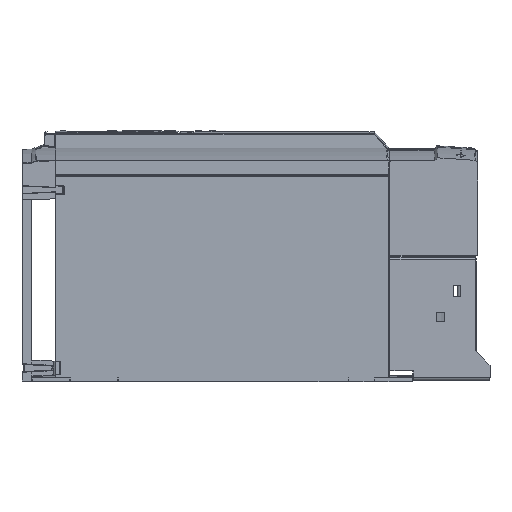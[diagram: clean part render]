
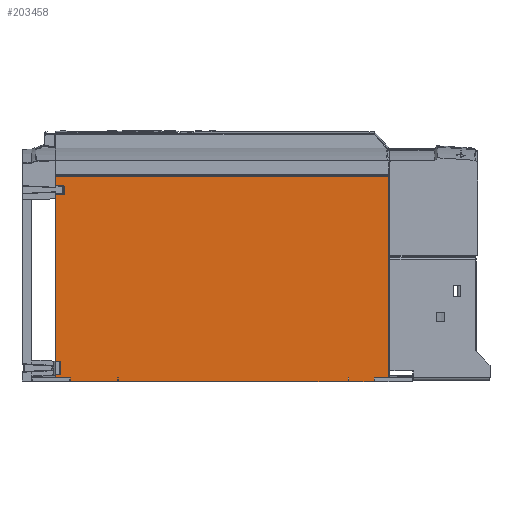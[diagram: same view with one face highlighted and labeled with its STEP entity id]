
A CAD part, left-side view. The second image highlights one B-rep face of the part: STEP entity #203458.
In plain terms, the highlighted planar face has unit normal (-1, 0, 0).
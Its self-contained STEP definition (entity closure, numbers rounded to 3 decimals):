
#75345=CARTESIAN_POINT('',(-82.5,-174.5,3.768));
#75371=CARTESIAN_POINT('',(-82.5,174.75,3.768));
#76720=DIRECTION('',(0.,0.,1.));
#76721=VECTOR('',#76720,3.768);
#76722=CARTESIAN_POINT('',(-82.5,159.156,0.));
#76723=LINE('',#76722,#76721);
#76774=CARTESIAN_POINT('',(-82.5,174.27,205.45));
#76775=CARTESIAN_POINT('',(-82.5,174.43,205.457));
#76776=CARTESIAN_POINT('',(-82.5,174.59,205.464));
#76777=CARTESIAN_POINT('',(-82.5,174.75,205.471));
#76782=DIRECTION('',(0.,0.,1.));
#76783=VECTOR('',#76782,9.179);
#76784=CARTESIAN_POINT('',(-82.5,174.75,205.471));
#76785=LINE('',#76784,#76783);
#76789=DIRECTION('',(0.,1.,0.));
#76790=VECTOR('',#76789,349.25);
#76791=CARTESIAN_POINT('',(-82.5,-174.5,214.65));
#76792=LINE('',#76791,#76790);
#76796=DIRECTION('',(0.,0.,-1.));
#76797=VECTOR('',#76796,210.882);
#76798=CARTESIAN_POINT('',(-82.5,-174.5,214.65));
#76799=LINE('',#76798,#76797);
#76803=DIRECTION('',(0.,1.,0.));
#76804=VECTOR('',#76803,14.95);
#76805=CARTESIAN_POINT('',(-82.5,-174.5,3.768));
#76806=LINE('',#76805,#76804);
#76810=DIRECTION('',(0.,0.,1.));
#76811=VECTOR('',#76810,3.768);
#76812=CARTESIAN_POINT('',(-82.5,-132.589,0.));
#76813=LINE('',#76812,#76811);
#76817=DIRECTION('',(0.,1.,0.));
#76818=VECTOR('',#76817,0.5);
#76819=CARTESIAN_POINT('',(-82.5,-132.589,3.768));
#76820=LINE('',#76819,#76818);
#76824=DIRECTION('',(0.,0.,-1.));
#76825=VECTOR('',#76824,3.775);
#76826=CARTESIAN_POINT('',(-82.5,-132.089,3.768));
#76827=LINE('',#76826,#76825);
#76831=DIRECTION('',(0.,1.,0.));
#76832=VECTOR('',#76831,241.178);
#76833=CARTESIAN_POINT('',(-82.5,-132.089,-0.007));
#76834=LINE('',#76833,#76832);
#76838=DIRECTION('',(0.,0.,1.));
#76839=VECTOR('',#76838,3.775);
#76840=CARTESIAN_POINT('',(-82.5,109.089,-0.007));
#76841=LINE('',#76840,#76839);
#76845=DIRECTION('',(0.,1.,0.));
#76846=VECTOR('',#76845,0.5);
#76847=CARTESIAN_POINT('',(-82.5,109.089,3.768));
#76848=LINE('',#76847,#76846);
#76852=DIRECTION('',(0.,0.,1.));
#76853=VECTOR('',#76852,3.768);
#76854=CARTESIAN_POINT('',(-82.5,109.589,0.));
#76855=LINE('',#76854,#76853);
#76859=DIRECTION('',(0.,1.,0.));
#76860=VECTOR('',#76859,15.594);
#76861=CARTESIAN_POINT('',(-82.5,159.156,3.768));
#76862=LINE('',#76861,#76860);
#76866=DIRECTION('',(0.,0.,1.));
#76867=VECTOR('',#76866,192.182);
#76868=CARTESIAN_POINT('',(-82.5,174.75,3.768));
#76869=LINE('',#76868,#76867);
#76873=DIRECTION('',(0.,1.,0.));
#76874=VECTOR('',#76873,8.854);
#76875=CARTESIAN_POINT('',(-82.5,165.896,195.95));
#76876=LINE('',#76875,#76874);
#76880=DIRECTION('',(0.,0.,-1.));
#76881=VECTOR('',#76880,9.);
#76882=CARTESIAN_POINT('',(-82.5,165.896,
204.95));
#76883=LINE('',#76882,#76881);
#76887=CARTESIAN_POINT('',(-82.5,165.896,
204.95));
#76888=CARTESIAN_POINT('',(-82.5,165.896,
204.967));
#76889=CARTESIAN_POINT('',(-82.5,165.899,
205.001));
#76890=CARTESIAN_POINT('',(-82.5,165.911,
205.055));
#76891=CARTESIAN_POINT('',(-82.5,165.932,
205.111));
#76892=CARTESIAN_POINT('',(-82.5,165.966,
205.17));
#76893=CARTESIAN_POINT('',(-82.5,166.013,
205.228));
#76894=CARTESIAN_POINT('',(-82.5,166.075,
205.285));
#76895=CARTESIAN_POINT('',(-82.5,166.152,
205.337));
#76896=CARTESIAN_POINT('',(-82.5,166.244,
205.383));
#76897=CARTESIAN_POINT('',(-82.5,166.352,
205.42));
#76898=CARTESIAN_POINT('',(-82.5,166.473,
205.444));
#76899=CARTESIAN_POINT('',(-82.5,166.559,
205.45));
#76900=CARTESIAN_POINT('',(-82.5,166.604,205.45));
#76905=DIRECTION('',(0.,1.,0.));
#76906=VECTOR('',#76905,7.667);
#76907=CARTESIAN_POINT('',(-82.5,166.604,205.45));
#76908=LINE('',#76907,#76906);
#167004=DIRECTION('',(0.,0.,1.));
#167005=VECTOR('',#167004,3.768);
#167006=CARTESIAN_POINT('',(-82.5,-159.55,0.));
#167007=LINE('',#167006,#167005);
#167039=DIRECTION('',(0.,-1.,0.));
#167040=VECTOR('',#167039,26.961);
#167041=CARTESIAN_POINT('',(-82.5,-132.589,0.));
#167042=LINE('',#167041,#167040);
#167174=DIRECTION('',(0.,-1.,0.));
#167175=VECTOR('',#167174,49.567);
#167176=CARTESIAN_POINT('',(-82.5,159.156,0.));
#167177=LINE('',#167176,#167175);
#175592=CARTESIAN_POINT('',(-82.5,-132.089,-0.007));
#175593=CARTESIAN_POINT('',(-82.5,109.089,-0.007));
#175594=VERTEX_POINT('',#175592);
#175595=VERTEX_POINT('',#175593);
#175601=CARTESIAN_POINT('',(-82.5,109.089,3.768));
#175603=VERTEX_POINT('',#175601);
#175605=CARTESIAN_POINT('',(-82.5,-132.089,3.768));
#175607=VERTEX_POINT('',#175605);
#175614=CARTESIAN_POINT('',(-82.5,-132.589,0.));
#175615=VERTEX_POINT('',#175614);
#175616=CARTESIAN_POINT('',(-82.5,-159.55,0.));
#175617=VERTEX_POINT('',#175616);
#175640=CARTESIAN_POINT('',(-82.5,-132.589,3.768));
#175641=VERTEX_POINT('',#175640);
#175642=CARTESIAN_POINT('',(-82.5,-159.55,3.768));
#175644=VERTEX_POINT('',#175642);
#175689=VERTEX_POINT('',#75345);
#175696=CARTESIAN_POINT('',(-82.5,109.589,0.));
#175697=VERTEX_POINT('',#175696);
#175698=CARTESIAN_POINT('',(-82.5,159.156,0.));
#175699=VERTEX_POINT('',#175698);
#175722=CARTESIAN_POINT('',(-82.5,109.589,3.768));
#175723=VERTEX_POINT('',#175722);
#175724=CARTESIAN_POINT('',(-82.5,159.156,3.768));
#175726=VERTEX_POINT('',#175724);
#176293=CARTESIAN_POINT('',(-82.5,-174.5,214.65));
#176295=VERTEX_POINT('',#176293);
#176826=CARTESIAN_POINT('',(-82.5,174.75,214.65));
#176828=VERTEX_POINT('',#176826);
#176830=VERTEX_POINT('',#75371);
#176891=VERTEX_POINT('',#76887);
#176892=VERTEX_POINT('',#76900);
#176897=CARTESIAN_POINT('',(-82.5,165.896,195.95));
#176898=VERTEX_POINT('',#176897);
#177096=CARTESIAN_POINT('',(-82.5,174.75,195.95));
#177097=VERTEX_POINT('',#177096);
#185767=VERTEX_POINT('',#76774);
#185768=VERTEX_POINT('',#76777);
#203412=CARTESIAN_POINT('',(-82.5,-175.,3.768));
#203413=DIRECTION('',(-1.,0.,0.));
#203414=DIRECTION('',(0.,0.,1.));
#203415=AXIS2_PLACEMENT_3D('',#203412,#203413,#203414);
#203416=PLANE('',#203415);
#203418=ORIENTED_EDGE('',*,*,#203417,.T.);
#203420=ORIENTED_EDGE('',*,*,#203419,.T.);
#203422=ORIENTED_EDGE('',*,*,#203421,.F.);
#203424=ORIENTED_EDGE('',*,*,#203423,.T.);
#203425=ORIENTED_EDGE('',*,*,#202167,.T.);
#203427=ORIENTED_EDGE('',*,*,#203426,.F.);
#203429=ORIENTED_EDGE('',*,*,#203428,.F.);
#203431=ORIENTED_EDGE('',*,*,#203430,.T.);
#203432=ORIENTED_EDGE('',*,*,#202133,.T.);
#203434=ORIENTED_EDGE('',*,*,#203433,.T.);
#203436=ORIENTED_EDGE('',*,*,#203435,.T.);
#203438=ORIENTED_EDGE('',*,*,#203437,.T.);
#203439=ORIENTED_EDGE('',*,*,#202125,.T.);
#203441=ORIENTED_EDGE('',*,*,#203440,.F.);
#203443=ORIENTED_EDGE('',*,*,#203442,.F.);
#203444=ORIENTED_EDGE('',*,*,#203384,.T.);
#203445=ORIENTED_EDGE('',*,*,#202179,.T.);
#203447=ORIENTED_EDGE('',*,*,#203446,.T.);
#203449=ORIENTED_EDGE('',*,*,#203448,.F.);
#203451=ORIENTED_EDGE('',*,*,#203450,.F.);
#203453=ORIENTED_EDGE('',*,*,#203452,.T.);
#203455=ORIENTED_EDGE('',*,*,#203454,.T.);
#203456=EDGE_LOOP('',(#203418,#203420,#203422,#203424,#203425,#203427,#203429,
#203431,#203432,#203434,#203436,#203438,#203439,#203441,#203443,#203444,#203445,
#203447,#203449,#203451,#203453,#203455));
#203457=FACE_OUTER_BOUND('',#203456,.F.);
#203458=ADVANCED_FACE('',(#203457),#203416,.T.);
#76778=B_SPLINE_CURVE_WITH_KNOTS('',3,(#76774,#76775,#76776,#76777),
.UNSPECIFIED.,.F.,.F.,(4,4),(0.,1.),.UNSPECIFIED.);
#76901=B_SPLINE_CURVE_WITH_KNOTS('',3,(#76887,#76888,#76889,#76890,#76891,
#76892,#76893,#76894,#76895,#76896,#76897,#76898,#76899,#76900),.UNSPECIFIED.,
.F.,.F.,(4,1,1,1,1,1,1,1,1,1,1,4),(0.,0.091,0.182,
0.273,0.364,0.455,0.545,
0.636,0.727,0.818,0.909,1.),
.UNSPECIFIED.);
#202125=EDGE_CURVE('',#175603,#175723,#76848,.T.);
#202133=EDGE_CURVE('',#175641,#175607,#76820,.T.);
#202167=EDGE_CURVE('',#175689,#175644,#76806,.T.);
#202179=EDGE_CURVE('',#175726,#176830,#76862,.T.);
#203384=EDGE_CURVE('',#175699,#175726,#76723,.T.);
#203417=EDGE_CURVE('',#185767,#185768,#76778,.T.);
#203419=EDGE_CURVE('',#185768,#176828,#76785,.T.);
#203421=EDGE_CURVE('',#176295,#176828,#76792,.T.);
#203423=EDGE_CURVE('',#176295,#175689,#76799,.T.);
#203426=EDGE_CURVE('',#175617,#175644,#167007,.T.);
#203428=EDGE_CURVE('',#175615,#175617,#167042,.T.);
#203430=EDGE_CURVE('',#175615,#175641,#76813,.T.);
#203433=EDGE_CURVE('',#175607,#175594,#76827,.T.);
#203435=EDGE_CURVE('',#175594,#175595,#76834,.T.);
#203437=EDGE_CURVE('',#175595,#175603,#76841,.T.);
#203440=EDGE_CURVE('',#175697,#175723,#76855,.T.);
#203442=EDGE_CURVE('',#175699,#175697,#167177,.T.);
#203446=EDGE_CURVE('',#176830,#177097,#76869,.T.);
#203448=EDGE_CURVE('',#176898,#177097,#76876,.T.);
#203450=EDGE_CURVE('',#176891,#176898,#76883,.T.);
#203452=EDGE_CURVE('',#176891,#176892,#76901,.T.);
#203454=EDGE_CURVE('',#176892,#185767,#76908,.T.);
